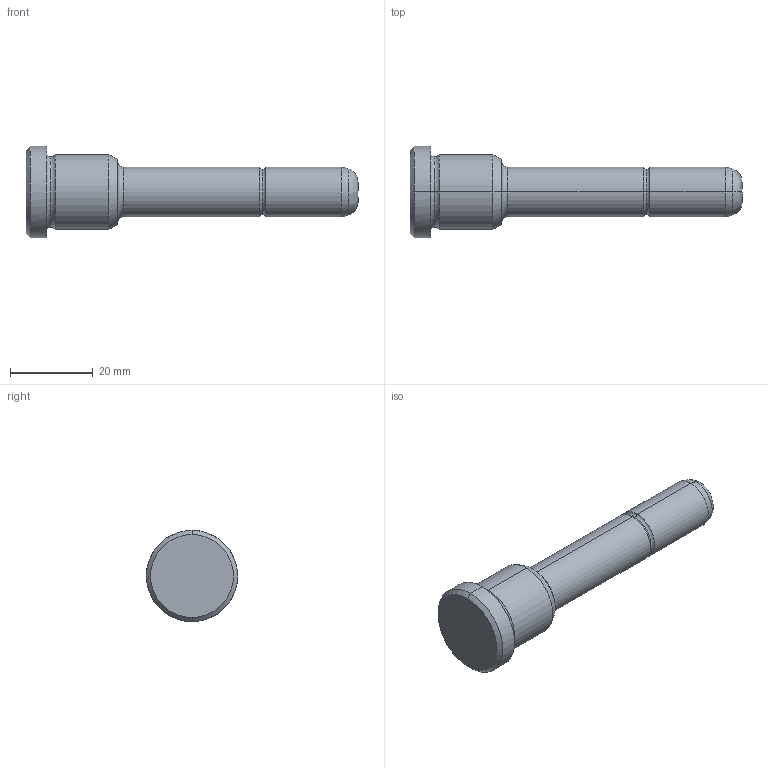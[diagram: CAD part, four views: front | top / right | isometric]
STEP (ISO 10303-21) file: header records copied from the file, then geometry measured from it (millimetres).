
FILE_DESCRIPTION(('CATIA V5 STEP Exchange'),'2;1');
FILE_NAME('C:\Users\Utente\Desktop\IO LAVORO\3D X SITO CF\X SITO\PLASTICA\351\351-12X22X80.stp','2021-08-17T11:47:17+00:00',('none'),('none'),'CATIA Version 5 Release 20 GA (IN-10)','CATIA V5 STEP AP203','none');
FILE_SCHEMA(('CONFIG_CONTROL_DESIGN'));
Length unit declared in the file: millimetre
Products named in the file (1): 351-12X22X80
Bounding box: 80 x 22 x 22 mm (x, y, z)
Volume: 12545.1 mm3; surface area: 4093.6 mm2
Topology: 1 solids, 1 shells, 30 faces, 86 edges, 60 vertices
Faces by surface type: torus 10, cylinder 8, cone 6, plane 4, bspline 2
Entity records: 1128 total; most frequent: CARTESIAN_POINT 343, ORIENTED_EDGE 172, DIRECTION 124, EDGE_CURVE 86, AXIS2_PLACEMENT_3D 83, VERTEX_POINT 60, CIRCLE 54, EDGE_LOOP 32
